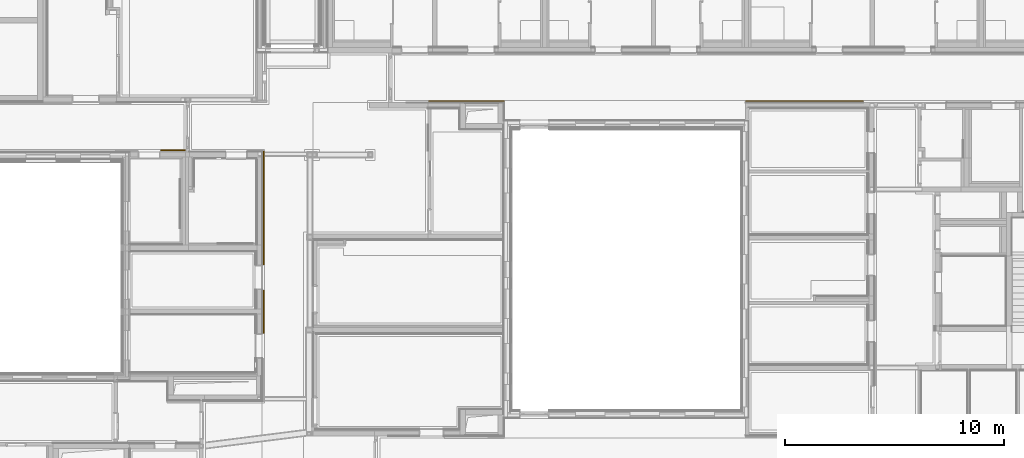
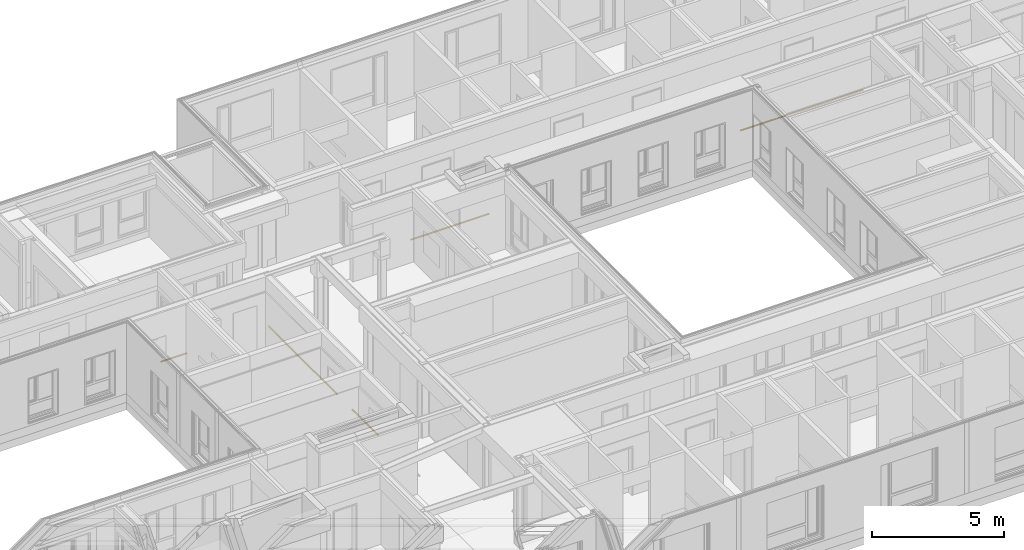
# One storey, part 201 of 207: 5 railings, 5 elements without a shape of their own.
"""IFC4 building model written with IfcOpenShell, lengths in metres."""

from ifc_helpers import new_model, entity, si_unit, converted_unit, derived_unit, frame, origin, place, context, subcontext, project, spatial, faceted_brep, material, element, aggregate, save


model = new_model("IFC4")

# Units and contexts
model_context = context("Model", 3, precision=1e-05, world=origin())
body_context = subcontext(model_context, "Body", "Model", "MODEL_VIEW")
ifc_project = project(units=[si_unit("LENGTHUNIT", "METRE"), si_unit("AREAUNIT", "SQUARE_METRE"), si_unit("VOLUMEUNIT", "CUBIC_METRE"), si_unit("MASSUNIT", "GRAM", prefix="KILO"), converted_unit("PLANEANGLEUNIT", "DEGREE", entity("IfcPlaneAngleMeasure", 0.0174532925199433), si_unit("PLANEANGLEUNIT", "RADIAN"), dimensions=[0, 0, 0, 0, 0, 0, 0]), derived_unit("THERMALTRANSMITTANCEUNIT", [(si_unit("POWERUNIT", "WATT"), 1), (si_unit("THERMODYNAMICTEMPERATUREUNIT", "KELVIN"), -1), (si_unit("LENGTHUNIT", "METRE"), -2)]), derived_unit("VOLUMETRICFLOWRATEUNIT", [(si_unit("LENGTHUNIT", "METRE"), 3), (converted_unit("TIMEUNIT", "hour", entity("IfcTimeMeasure", 3600.0), si_unit("TIMEUNIT", "SECOND"), dimensions=[0, 0, 1, 0, 0, 0, 0]), -1), (si_unit("LENGTHUNIT", "METRE"), -1)])], contexts=[model_context])

# Site, building, storey
site_placement = place(None, origin())
site = spatial("IfcSite", under=ifc_project, at=site_placement, Name="Psychiatrie Neubau Wunstorf", CompositionType="ELEMENT")
building_placement = place(site_placement, origin())
building = spatial("IfcBuilding", under=site, at=building_placement, Name="Neubau H2 Stationsgebäude", CompositionType="ELEMENT")
storey_placement = place(building_placement, frame((0.0, 0.0, -0.2)))
storey = spatial("IfcBuildingStorey", under=building, at=storey_placement, Name="H2 Ebene 0", CompositionType="ELEMENT", Elevation=-0.2)

# Assembly, railing
assembly_1_placement = place(storey_placement, frame((0.0, 0.0, 0.2)))
assembly_1 = element("IfcElementAssembly", 1, at=assembly_1_placement, inside=storey, Name="Geländer+Abstand", PredefinedType="NOTDEFINED")
ifc_material_1 = material(Name="Holz")
railing_1_placement = place(assembly_1_placement, frame((68.1675, 15.4400000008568, 0.8)))
railing_1 = element("IfcRailing", 2, at=railing_1_placement, material=ifc_material_1, context=body_context, shape_type="Brep", body=[
    faceted_brep([(0.025, 5.19599802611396, 0.000103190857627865), (0.0293232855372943, 5.19599802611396, 0.000481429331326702), (0.0335152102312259, 5.19599802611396, 0.00160465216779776), (0.0374484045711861, 5.19599802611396, 0.00343873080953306), (0.0410033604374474, 5.19599802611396, 0.00592793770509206), (0.0440720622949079, 5.19599802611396, 0.00899663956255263), (0.0465612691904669, 5.19599802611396, 0.0125515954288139), (0.0483953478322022, 5.19599802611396, 0.0164847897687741), (0.0495185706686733, 5.19599802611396, 0.0206767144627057), (0.0498968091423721, 5.19599802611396, 0.025), (0.0495185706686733, 5.19599802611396, 0.0293232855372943), (0.0483953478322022, 5.19599802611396, 0.0335152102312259), (0.0465612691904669, 5.19599802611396, 0.0374484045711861), (0.0440720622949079, 5.19599802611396, 0.0410033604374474), (0.0410033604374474, 5.19599802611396, 0.0440720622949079), (0.0374484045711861, 5.19599802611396, 0.0465612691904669), (0.0335152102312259, 5.19599802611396, 0.0483953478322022), (0.0293232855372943, 5.19599802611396, 0.0495185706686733), (0.025, 5.19599802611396, 0.0498968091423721), (0.0206767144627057, 5.19599802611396, 0.0495185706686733), (0.0164847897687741, 5.19599802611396, 0.0483953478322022), (0.0125515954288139, 5.19599802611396, 0.0465612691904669), (0.00899663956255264, 5.19599802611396, 0.044072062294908), (0.00592793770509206, 5.19599802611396, 0.0410033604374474), (0.00343873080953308, 5.19599802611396, 0.0374484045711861), (0.00160465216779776, 5.19599802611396, 0.0335152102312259), (0.000481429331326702, 5.19599802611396, 0.0293232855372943), (0.000103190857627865, 5.19599802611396, 0.025), (0.000481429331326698, 5.19599802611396, 0.0206767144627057), (0.00160465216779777, 5.19599802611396, 0.0164847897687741), (0.00343873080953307, 5.19599802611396, 0.0125515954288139), (0.00592793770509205, 5.19599802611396, 0.00899663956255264), (0.00899663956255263, 5.19599802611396, 0.00592793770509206), (0.0125515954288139, 5.19599802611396, 0.00343873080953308), (0.0164847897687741, 5.19599802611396, 0.00160465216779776), (0.0206767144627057, 5.19599802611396, 0.000481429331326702), (0.025, 0.0, 0.000103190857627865), (0.0206767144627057, 0.0, 0.000481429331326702), (0.0164847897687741, 0.0, 0.00160465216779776), (0.0125515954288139, 0.0, 0.00343873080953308), (0.00899663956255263, 0.0, 0.00592793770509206), (0.00592793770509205, 0.0, 0.00899663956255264), (0.00343873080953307, 0.0, 0.0125515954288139), (0.00160465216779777, 0.0, 0.0164847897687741), (0.000481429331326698, 0.0, 0.0206767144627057), (0.000103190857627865, 0.0, 0.025), (0.000481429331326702, 0.0, 0.0293232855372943), (0.00160465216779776, 0.0, 0.0335152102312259), (0.00343873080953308, 0.0, 0.0374484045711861), (0.00592793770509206, 0.0, 0.0410033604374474), (0.00899663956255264, 0.0, 0.044072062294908), (0.0125515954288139, 0.0, 0.0465612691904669), (0.0164847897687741, 0.0, 0.0483953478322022), (0.0206767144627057, 0.0, 0.0495185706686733), (0.025, 0.0, 0.0498968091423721), (0.0293232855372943, 0.0, 0.0495185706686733), (0.0335152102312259, 0.0, 0.0483953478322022), (0.0374484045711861, 0.0, 0.0465612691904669), (0.0410033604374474, 0.0, 0.0440720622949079), (0.0440720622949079, 0.0, 0.0410033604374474), (0.0465612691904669, 0.0, 0.0374484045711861), (0.0483953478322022, 0.0, 0.0335152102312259), (0.0495185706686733, 0.0, 0.0293232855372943), (0.0498968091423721, 0.0, 0.025), (0.0495185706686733, 0.0, 0.0206767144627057), (0.0483953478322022, 0.0, 0.0164847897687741), (0.0465612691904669, 0.0, 0.0125515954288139), (0.0440720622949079, 0.0, 0.00899663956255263), (0.0410033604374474, 0.0, 0.00592793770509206), (0.0374484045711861, 0.0, 0.00343873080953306), (0.0335152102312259, 0.0, 0.00160465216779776), (0.0293232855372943, 0.0, 0.000481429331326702)], [[[0, 1, 2, 3, 4, 5, 6, 7, 8, 9, 10, 11, 12, 13, 14, 15, 16, 17, 18, 19, 20, 21, 22, 23, 24, 25, 26, 27, 28, 29, 30, 31, 32, 33, 34, 35]], [[36, 37, 38, 39, 40, 41, 42, 43, 44, 45, 46, 47, 48, 49, 50, 51, 52, 53, 54, 55, 56, 57, 58, 59, 60, 61, 62, 63, 64, 65, 66, 67, 68, 69, 70, 71]], [[1, 0, 36, 71]], [[2, 1, 71, 70]], [[3, 2, 70, 69]], [[4, 3, 69, 68]], [[5, 4, 68, 67]], [[6, 5, 67, 66]], [[7, 6, 66, 65]], [[8, 7, 65, 64]], [[9, 8, 64, 63]], [[10, 9, 63, 62]], [[11, 10, 62, 61]], [[12, 11, 61, 60]], [[13, 12, 60, 59]], [[14, 13, 59, 58]], [[15, 14, 58, 57]], [[16, 15, 57, 56]], [[17, 16, 56, 55]], [[18, 17, 55, 54]], [[19, 18, 54, 53]], [[20, 19, 53, 52]], [[21, 20, 52, 51]], [[22, 21, 51, 50]], [[23, 22, 50, 49]], [[24, 23, 49, 48]], [[25, 24, 48, 47]], [[26, 25, 47, 46]], [[27, 26, 46, 45]], [[28, 27, 45, 44]], [[29, 28, 44, 43]], [[30, 29, 43, 42]], [[31, 30, 42, 41]], [[32, 31, 41, 40]], [[33, 32, 40, 39]], [[34, 33, 39, 38]], [[35, 34, 38, 37]], [[0, 35, 37, 36]]], orient=[[False], [False], [False], [False], [False], [False], [False], [False], [False], [False], [False], [False], [False], [False], [False], [False], [False], [False], [False], [False], [False], [False], [False], [False], [False], [False], [False], [False], [False], [False], [False], [False], [False], [False], [False], [False], [False], [False]]),
])
aggregate(assembly_1, [railing_1])

assembly_2_placement = place(storey_placement, frame((0.0, 0.0, 0.2)))
assembly_2 = element("IfcElementAssembly", 3, at=assembly_2_placement, inside=storey, Name="Geländer+Abstand", PredefinedType="NOTDEFINED")
ifc_material_2 = material(Name="Holz")
railing_2_placement = place(assembly_2_placement, frame((68.1675, 12.3085717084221, 0.8)))
railing_2 = element("IfcRailing", 4, at=railing_2_placement, material=ifc_material_2, context=body_context, shape_type="Brep", body=[
    faceted_brep([(0.025, 0.0, 0.0498968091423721), (0.0293232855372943, 0.0, 0.0495185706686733), (0.0335152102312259, 0.0, 0.0483953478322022), (0.0374484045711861, 0.0, 0.0465612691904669), (0.0410033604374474, 0.0, 0.0440720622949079), (0.0440720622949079, 0.0, 0.0410033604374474), (0.0465612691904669, 0.0, 0.0374484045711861), (0.0483953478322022, 0.0, 0.0335152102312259), (0.0495185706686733, 0.0, 0.0293232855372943), (0.0498968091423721, 0.0, 0.025), (0.0495185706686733, 0.0, 0.0206767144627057), (0.0483953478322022, 0.0, 0.0164847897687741), (0.0465612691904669, 0.0, 0.0125515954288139), (0.0440720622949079, 0.0, 0.00899663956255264), (0.0410033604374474, 0.0, 0.00592793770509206), (0.0374484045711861, 0.0, 0.00343873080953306), (0.0335152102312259, 0.0, 0.00160465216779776), (0.0293232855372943, 0.0, 0.000481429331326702), (0.025, 0.0, 0.000103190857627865), (0.0206767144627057, 0.0, 0.000481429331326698), (0.0164847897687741, 0.0, 0.00160465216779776), (0.0125515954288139, 0.0, 0.00343873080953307), (0.00899663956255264, 0.0, 0.00592793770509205), (0.00592793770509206, 0.0, 0.00899663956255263), (0.00343873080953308, 0.0, 0.0125515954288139), (0.00160465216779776, 0.0, 0.0164847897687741), (0.000481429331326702, 0.0, 0.0206767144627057), (0.000103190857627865, 0.0, 0.025), (0.000481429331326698, 0.0, 0.0293232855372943), (0.00160465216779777, 0.0, 0.0335152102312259), (0.00343873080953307, 0.0, 0.0374484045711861), (0.00592793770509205, 0.0, 0.0410033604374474), (0.00899663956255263, 0.0, 0.0440720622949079), (0.0125515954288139, 0.0, 0.0465612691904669), (0.0164847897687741, 0.0, 0.0483953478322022), (0.0206767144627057, 0.0, 0.0495185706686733), (0.025, 1.96642829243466, 0.0498968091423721), (0.0206767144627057, 1.96642829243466, 0.0495185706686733), (0.0164847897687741, 1.96642829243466, 0.0483953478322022), (0.0125515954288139, 1.96642829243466, 0.0465612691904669), (0.00899663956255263, 1.96642829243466, 0.0440720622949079), (0.00592793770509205, 1.96642829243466, 0.0410033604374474), (0.00343873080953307, 1.96642829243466, 0.0374484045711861), (0.00160465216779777, 1.96642829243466, 0.0335152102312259), (0.000481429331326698, 1.96642829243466, 0.0293232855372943), (0.000103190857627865, 1.96642829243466, 0.025), (0.000481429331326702, 1.96642829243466, 0.0206767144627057), (0.00160465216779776, 1.96642829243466, 0.0164847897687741), (0.00343873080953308, 1.96642829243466, 0.0125515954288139), (0.00592793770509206, 1.96642829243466, 0.00899663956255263), (0.00899663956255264, 1.96642829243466, 0.00592793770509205), (0.0125515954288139, 1.96642829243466, 0.00343873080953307), (0.0164847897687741, 1.96642829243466, 0.00160465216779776), (0.0206767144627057, 1.96642829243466, 0.000481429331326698), (0.025, 1.96642829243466, 0.000103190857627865), (0.0293232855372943, 1.96642829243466, 0.000481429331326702), (0.0335152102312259, 1.96642829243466, 0.00160465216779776), (0.0374484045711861, 1.96642829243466, 0.00343873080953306), (0.0410033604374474, 1.96642829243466, 0.00592793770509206), (0.0440720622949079, 1.96642829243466, 0.00899663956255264), (0.0465612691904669, 1.96642829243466, 0.0125515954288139), (0.0483953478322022, 1.96642829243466, 0.0164847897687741), (0.0495185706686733, 1.96642829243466, 0.0206767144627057), (0.0498968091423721, 1.96642829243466, 0.025), (0.0495185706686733, 1.96642829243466, 0.0293232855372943), (0.0483953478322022, 1.96642829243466, 0.0335152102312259), (0.0465612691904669, 1.96642829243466, 0.0374484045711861), (0.0440720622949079, 1.96642829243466, 0.0410033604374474), (0.0410033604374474, 1.96642829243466, 0.0440720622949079), (0.0374484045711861, 1.96642829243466, 0.0465612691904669), (0.0335152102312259, 1.96642829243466, 0.0483953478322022), (0.0293232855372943, 1.96642829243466, 0.0495185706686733)], [[[0, 1, 2, 3, 4, 5, 6, 7, 8, 9, 10, 11, 12, 13, 14, 15, 16, 17, 18, 19, 20, 21, 22, 23, 24, 25, 26, 27, 28, 29, 30, 31, 32, 33, 34, 35]], [[36, 37, 38, 39, 40, 41, 42, 43, 44, 45, 46, 47, 48, 49, 50, 51, 52, 53, 54, 55, 56, 57, 58, 59, 60, 61, 62, 63, 64, 65, 66, 67, 68, 69, 70, 71]], [[1, 0, 36, 71]], [[2, 1, 71, 70]], [[3, 2, 70, 69]], [[4, 3, 69, 68]], [[5, 4, 68, 67]], [[6, 5, 67, 66]], [[7, 6, 66, 65]], [[8, 7, 65, 64]], [[9, 8, 64, 63]], [[10, 9, 63, 62]], [[11, 10, 62, 61]], [[12, 11, 61, 60]], [[13, 12, 60, 59]], [[14, 13, 59, 58]], [[15, 14, 58, 57]], [[16, 15, 57, 56]], [[17, 16, 56, 55]], [[18, 17, 55, 54]], [[19, 18, 54, 53]], [[20, 19, 53, 52]], [[21, 20, 52, 51]], [[22, 21, 51, 50]], [[23, 22, 50, 49]], [[24, 23, 49, 48]], [[25, 24, 48, 47]], [[26, 25, 47, 46]], [[27, 26, 46, 45]], [[28, 27, 45, 44]], [[29, 28, 44, 43]], [[30, 29, 43, 42]], [[31, 30, 42, 41]], [[32, 31, 41, 40]], [[33, 32, 40, 39]], [[34, 33, 39, 38]], [[35, 34, 38, 37]], [[0, 35, 37, 36]]], orient=[[False], [False], [False], [False], [False], [False], [False], [False], [False], [False], [False], [False], [False], [False], [False], [False], [False], [False], [False], [False], [False], [False], [False], [False], [False], [False], [False], [False], [False], [False], [False], [False], [False], [False], [False], [False], [False], [False]]),
])
aggregate(assembly_2, [railing_2])

assembly_3_placement = place(storey_placement, frame((0.0, 0.0, 0.2)))
assembly_3 = element("IfcElementAssembly", 5, at=assembly_3_placement, inside=storey, Name="Geländer+Abstand", PredefinedType="NOTDEFINED")
ifc_material_3 = material(Name="Holz")
railing_3_placement = place(assembly_3_placement, frame((90.211, 22.886, 0.8)))
railing_3 = element("IfcRailing", 6, at=railing_3_placement, material=ifc_material_3, context=body_context, shape_type="Brep", body=[
    faceted_brep([(5.37900001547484, 0.000103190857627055, 0.025), (5.37900001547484, 0.000481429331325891, 0.0293232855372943), (5.37900001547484, 0.00160465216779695, 0.0335152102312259), (5.37900001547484, 0.00343873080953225, 0.0374484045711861), (5.37900001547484, 0.00592793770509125, 0.0410033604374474), (5.37900001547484, 0.00899663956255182, 0.0440720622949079), (5.37900001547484, 0.0125515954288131, 0.0465612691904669), (5.37900001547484, 0.0164847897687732, 0.0483953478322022), (5.37900001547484, 0.0206767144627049, 0.0495185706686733), (5.37900001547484, 0.0249999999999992, 0.0498968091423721), (5.37900001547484, 0.0293232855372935, 0.0495185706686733), (5.37900001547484, 0.0335152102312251, 0.0483953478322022), (5.37900001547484, 0.0374484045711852, 0.0465612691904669), (5.37900001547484, 0.0410033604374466, 0.0440720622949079), (5.37900001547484, 0.0440720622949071, 0.0410033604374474), (5.37900001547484, 0.0465612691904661, 0.0374484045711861), (5.37900001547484, 0.0483953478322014, 0.0335152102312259), (5.37900001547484, 0.0495185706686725, 0.0293232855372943), (5.37900001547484, 0.0498968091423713, 0.025), (5.37900001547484, 0.0495185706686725, 0.0206767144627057), (5.37900001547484, 0.0483953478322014, 0.0164847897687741), (5.37900001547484, 0.0465612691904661, 0.0125515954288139), (5.37900001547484, 0.0440720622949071, 0.00899663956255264), (5.37900001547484, 0.0410033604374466, 0.00592793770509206), (5.37900001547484, 0.0374484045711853, 0.00343873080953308), (5.37900001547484, 0.0335152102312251, 0.00160465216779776), (5.37900001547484, 0.0293232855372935, 0.000481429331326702), (5.37900001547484, 0.0249999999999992, 0.000103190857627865), (5.37900001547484, 0.0206767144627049, 0.000481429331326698), (5.37900001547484, 0.0164847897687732, 0.00160465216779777), (5.37900001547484, 0.0125515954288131, 0.00343873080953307), (5.37900001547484, 0.00899663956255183, 0.00592793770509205), (5.37900001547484, 0.00592793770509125, 0.00899663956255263), (5.37900001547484, 0.00343873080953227, 0.0125515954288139), (5.37900001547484, 0.00160465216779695, 0.0164847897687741), (5.37900001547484, 0.000481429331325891, 0.0206767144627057), (0.0, 0.000103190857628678, 0.025), (0.0, 0.000481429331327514, 0.0206767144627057), (0.0, 0.00160465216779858, 0.0164847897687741), (0.0, 0.00343873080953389, 0.0125515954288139), (0.0, 0.00592793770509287, 0.00899663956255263), (0.0, 0.00899663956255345, 0.00592793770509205), (0.0, 0.0125515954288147, 0.00343873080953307), (0.0, 0.0164847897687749, 0.00160465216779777), (0.0, 0.0206767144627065, 0.000481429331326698), (0.0, 0.0250000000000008, 0.000103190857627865), (0.0, 0.0293232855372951, 0.000481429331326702), (0.0, 0.0335152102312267, 0.00160465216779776), (0.0, 0.0374484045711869, 0.00343873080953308), (0.0, 0.0410033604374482, 0.00592793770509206), (0.0, 0.0440720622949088, 0.00899663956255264), (0.0, 0.0465612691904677, 0.0125515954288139), (0.0, 0.0483953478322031, 0.0164847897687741), (0.0, 0.0495185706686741, 0.0206767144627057), (0.0, 0.0498968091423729, 0.025), (0.0, 0.0495185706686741, 0.0293232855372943), (0.0, 0.048395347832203, 0.0335152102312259), (0.0, 0.0465612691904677, 0.0374484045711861), (0.0, 0.0440720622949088, 0.0410033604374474), (0.0, 0.0410033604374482, 0.0440720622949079), (0.0, 0.0374484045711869, 0.0465612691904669), (0.0, 0.0335152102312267, 0.0483953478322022), (0.0, 0.0293232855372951, 0.0495185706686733), (0.0, 0.0250000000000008, 0.0498968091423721), (0.0, 0.0206767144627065, 0.0495185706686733), (0.0, 0.0164847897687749, 0.0483953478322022), (0.0, 0.0125515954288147, 0.0465612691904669), (0.0, 0.00899663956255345, 0.0440720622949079), (0.0, 0.00592793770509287, 0.0410033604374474), (0.0, 0.00343873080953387, 0.0374484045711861), (0.0, 0.00160465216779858, 0.0335152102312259), (0.0, 0.000481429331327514, 0.0293232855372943)], [[[0, 1, 2, 3, 4, 5, 6, 7, 8, 9, 10, 11, 12, 13, 14, 15, 16, 17, 18, 19, 20, 21, 22, 23, 24, 25, 26, 27, 28, 29, 30, 31, 32, 33, 34, 35]], [[36, 37, 38, 39, 40, 41, 42, 43, 44, 45, 46, 47, 48, 49, 50, 51, 52, 53, 54, 55, 56, 57, 58, 59, 60, 61, 62, 63, 64, 65, 66, 67, 68, 69, 70, 71]], [[1, 0, 36, 71]], [[2, 1, 71, 70]], [[3, 2, 70, 69]], [[4, 3, 69, 68]], [[5, 4, 68, 67]], [[6, 5, 67, 66]], [[7, 6, 66, 65]], [[8, 7, 65, 64]], [[9, 8, 64, 63]], [[10, 9, 63, 62]], [[11, 10, 62, 61]], [[12, 11, 61, 60]], [[13, 12, 60, 59]], [[14, 13, 59, 58]], [[15, 14, 58, 57]], [[16, 15, 57, 56]], [[17, 16, 56, 55]], [[18, 17, 55, 54]], [[19, 18, 54, 53]], [[20, 19, 53, 52]], [[21, 20, 52, 51]], [[22, 21, 51, 50]], [[23, 22, 50, 49]], [[24, 23, 49, 48]], [[25, 24, 48, 47]], [[26, 25, 47, 46]], [[27, 26, 46, 45]], [[28, 27, 45, 44]], [[29, 28, 44, 43]], [[30, 29, 43, 42]], [[31, 30, 42, 41]], [[32, 31, 41, 40]], [[33, 32, 40, 39]], [[34, 33, 39, 38]], [[35, 34, 38, 37]], [[0, 35, 37, 36]]], orient=[[False], [False], [False], [False], [False], [False], [False], [False], [False], [False], [False], [False], [False], [False], [False], [False], [False], [False], [False], [False], [False], [False], [False], [False], [False], [False], [False], [False], [False], [False], [False], [False], [False], [False], [False], [False], [False], [False]]),
])
aggregate(assembly_3, [railing_3])

assembly_4_placement = place(storey_placement, frame((0.0, 0.0, 0.2)))
assembly_4 = element("IfcElementAssembly", 7, at=assembly_4_placement, inside=storey, Name="Geländer+Abstand", PredefinedType="NOTDEFINED")
ifc_material_4 = material(Name="Holz")
railing_4_placement = place(assembly_4_placement, frame((75.74, 22.886, 0.8)))
railing_4 = element("IfcRailing", 8, at=railing_4_placement, material=ifc_material_4, context=body_context, shape_type="Brep", body=[
    faceted_brep([(3.43999963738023, 0.000103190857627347, 0.025), (3.43999963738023, 0.000481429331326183, 0.0293232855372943), (3.43999963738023, 0.00160465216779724, 0.0335152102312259), (3.43999963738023, 0.00343873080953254, 0.0374484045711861), (3.43999963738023, 0.00592793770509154, 0.0410033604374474), (3.43999963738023, 0.00899663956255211, 0.0440720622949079), (3.43999963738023, 0.0125515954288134, 0.0465612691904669), (3.43999963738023, 0.0164847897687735, 0.0483953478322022), (3.43999963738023, 0.0206767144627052, 0.0495185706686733), (3.43999963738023, 0.0249999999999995, 0.0498968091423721), (3.43999963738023, 0.0293232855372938, 0.0495185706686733), (3.43999963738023, 0.0335152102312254, 0.0483953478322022), (3.43999963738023, 0.0374484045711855, 0.0465612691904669), (3.43999963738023, 0.0410033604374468, 0.0440720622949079), (3.43999963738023, 0.0440720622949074, 0.0410033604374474), (3.43999963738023, 0.0465612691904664, 0.0374484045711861), (3.43999963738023, 0.0483953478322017, 0.0335152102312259), (3.43999963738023, 0.0495185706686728, 0.0293232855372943), (3.43999963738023, 0.0498968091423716, 0.025), (3.43999963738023, 0.0495185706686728, 0.0206767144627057), (3.43999963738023, 0.0483953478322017, 0.0164847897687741), (3.43999963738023, 0.0465612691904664, 0.0125515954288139), (3.43999963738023, 0.0440720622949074, 0.00899663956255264), (3.43999963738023, 0.0410033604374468, 0.00592793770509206), (3.43999963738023, 0.0374484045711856, 0.00343873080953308), (3.43999963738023, 0.0335152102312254, 0.00160465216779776), (3.43999963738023, 0.0293232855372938, 0.000481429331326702), (3.43999963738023, 0.0249999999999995, 0.000103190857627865), (3.43999963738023, 0.0206767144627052, 0.000481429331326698), (3.43999963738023, 0.0164847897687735, 0.00160465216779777), (3.43999963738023, 0.0125515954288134, 0.00343873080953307), (3.43999963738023, 0.00899663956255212, 0.00592793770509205), (3.43999963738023, 0.00592793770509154, 0.00899663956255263), (3.43999963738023, 0.00343873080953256, 0.0125515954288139), (3.43999963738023, 0.00160465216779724, 0.0164847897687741), (3.43999963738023, 0.000481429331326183, 0.0206767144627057), (0.0, 0.000103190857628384, 0.025), (0.0, 0.00048142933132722, 0.0206767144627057), (0.0, 0.00160465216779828, 0.0164847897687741), (0.0, 0.0034387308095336, 0.0125515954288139), (0.0, 0.00592793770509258, 0.00899663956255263), (0.0, 0.00899663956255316, 0.00592793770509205), (0.0, 0.0125515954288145, 0.00343873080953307), (0.0, 0.0164847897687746, 0.00160465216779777), (0.0, 0.0206767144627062, 0.000481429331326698), (0.0, 0.0250000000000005, 0.000103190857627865), (0.0, 0.0293232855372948, 0.000481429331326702), (0.0, 0.0335152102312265, 0.00160465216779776), (0.0, 0.0374484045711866, 0.00343873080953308), (0.0, 0.0410033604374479, 0.00592793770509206), (0.0, 0.0440720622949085, 0.00899663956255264), (0.0, 0.0465612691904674, 0.0125515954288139), (0.0, 0.0483953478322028, 0.0164847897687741), (0.0, 0.0495185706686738, 0.0206767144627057), (0.0, 0.0498968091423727, 0.025), (0.0, 0.0495185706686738, 0.0293232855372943), (0.0, 0.0483953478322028, 0.0335152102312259), (0.0, 0.0465612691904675, 0.0374484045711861), (0.0, 0.0440720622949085, 0.0410033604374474), (0.0, 0.0410033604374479, 0.0440720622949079), (0.0, 0.0374484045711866, 0.0465612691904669), (0.0, 0.0335152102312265, 0.0483953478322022), (0.0, 0.0293232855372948, 0.0495185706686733), (0.0, 0.0250000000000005, 0.0498968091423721), (0.0, 0.0206767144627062, 0.0495185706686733), (0.0, 0.0164847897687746, 0.0483953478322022), (0.0, 0.0125515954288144, 0.0465612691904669), (0.0, 0.00899663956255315, 0.0440720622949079), (0.0, 0.00592793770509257, 0.0410033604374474), (0.0, 0.00343873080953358, 0.0374484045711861), (0.0, 0.00160465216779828, 0.0335152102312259), (0.0, 0.00048142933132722, 0.0293232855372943)], [[[0, 1, 2, 3, 4, 5, 6, 7, 8, 9, 10, 11, 12, 13, 14, 15, 16, 17, 18, 19, 20, 21, 22, 23, 24, 25, 26, 27, 28, 29, 30, 31, 32, 33, 34, 35]], [[36, 37, 38, 39, 40, 41, 42, 43, 44, 45, 46, 47, 48, 49, 50, 51, 52, 53, 54, 55, 56, 57, 58, 59, 60, 61, 62, 63, 64, 65, 66, 67, 68, 69, 70, 71]], [[1, 0, 36, 71]], [[2, 1, 71, 70]], [[3, 2, 70, 69]], [[4, 3, 69, 68]], [[5, 4, 68, 67]], [[6, 5, 67, 66]], [[7, 6, 66, 65]], [[8, 7, 65, 64]], [[9, 8, 64, 63]], [[10, 9, 63, 62]], [[11, 10, 62, 61]], [[12, 11, 61, 60]], [[13, 12, 60, 59]], [[14, 13, 59, 58]], [[15, 14, 58, 57]], [[16, 15, 57, 56]], [[17, 16, 56, 55]], [[18, 17, 55, 54]], [[19, 18, 54, 53]], [[20, 19, 53, 52]], [[21, 20, 52, 51]], [[22, 21, 51, 50]], [[23, 22, 50, 49]], [[24, 23, 49, 48]], [[25, 24, 48, 47]], [[26, 25, 47, 46]], [[27, 26, 46, 45]], [[28, 27, 45, 44]], [[29, 28, 44, 43]], [[30, 29, 43, 42]], [[31, 30, 42, 41]], [[32, 31, 41, 40]], [[33, 32, 40, 39]], [[34, 33, 39, 38]], [[35, 34, 38, 37]], [[0, 35, 37, 36]]], orient=[[False], [False], [False], [False], [False], [False], [False], [False], [False], [False], [False], [False], [False], [False], [False], [False], [False], [False], [False], [False], [False], [False], [False], [False], [False], [False], [False], [False], [False], [False], [False], [False], [False], [False], [False], [False], [False], [False]]),
])
aggregate(assembly_4, [railing_4])

assembly_5_placement = place(storey_placement, frame((0.0, 0.0, 0.2)))
assembly_5 = element("IfcElementAssembly", 9, at=assembly_5_placement, inside=storey, Name="Geländer+Abstand", PredefinedType="NOTDEFINED")
ifc_material_5 = material(Name="Holz")
railing_5_placement = place(assembly_5_placement, frame((63.4750000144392, 20.6359980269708, 0.8)))
railing_5 = element("IfcRailing", 10, at=railing_5_placement, material=ifc_material_5, context=body_context, shape_type="Brep", body=[
    faceted_brep([(1.13349998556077, 0.000103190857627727, 0.025), (1.13349998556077, 0.000481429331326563, 0.0293232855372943), (1.13349998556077, 0.00160465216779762, 0.0335152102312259), (1.13349998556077, 0.00343873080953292, 0.0374484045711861), (1.13349998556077, 0.00592793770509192, 0.0410033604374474), (1.13349998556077, 0.00899663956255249, 0.0440720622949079), (1.13349998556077, 0.0125515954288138, 0.0465612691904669), (1.13349998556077, 0.0164847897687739, 0.0483953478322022), (1.13349998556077, 0.0206767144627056, 0.0495185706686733), (1.13349998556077, 0.0249999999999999, 0.0498968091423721), (1.13349998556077, 0.0293232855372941, 0.0495185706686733), (1.13349998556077, 0.0335152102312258, 0.0483953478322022), (1.13349998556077, 0.0374484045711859, 0.0465612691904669), (1.13349998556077, 0.0410033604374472, 0.0440720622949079), (1.13349998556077, 0.0440720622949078, 0.0410033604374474), (1.13349998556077, 0.0465612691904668, 0.0374484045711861), (1.13349998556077, 0.0483953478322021, 0.0335152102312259), (1.13349998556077, 0.0495185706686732, 0.0293232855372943), (1.13349998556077, 0.049896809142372, 0.025), (1.13349998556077, 0.0495185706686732, 0.0206767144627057), (1.13349998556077, 0.0483953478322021, 0.0164847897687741), (1.13349998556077, 0.0465612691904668, 0.0125515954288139), (1.13349998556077, 0.0440720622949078, 0.00899663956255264), (1.13349998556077, 0.0410033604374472, 0.00592793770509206), (1.13349998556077, 0.0374484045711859, 0.00343873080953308), (1.13349998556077, 0.0335152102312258, 0.00160465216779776), (1.13349998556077, 0.0293232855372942, 0.000481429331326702), (1.13349998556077, 0.0249999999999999, 0.000103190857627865), (1.13349998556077, 0.0206767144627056, 0.000481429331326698), (1.13349998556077, 0.0164847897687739, 0.00160465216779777), (1.13349998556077, 0.0125515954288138, 0.00343873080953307), (1.13349998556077, 0.0089966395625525, 0.00592793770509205), (1.13349998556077, 0.00592793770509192, 0.00899663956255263), (1.13349998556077, 0.00343873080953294, 0.0125515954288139), (1.13349998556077, 0.00160465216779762, 0.0164847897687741), (1.13349998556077, 0.000481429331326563, 0.0206767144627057), (0.0, 0.000103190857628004, 0.025), (0.0, 0.000481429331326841, 0.0206767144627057), (0.0, 0.0016046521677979, 0.0164847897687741), (0.0, 0.00343873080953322, 0.0125515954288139), (0.0, 0.0059279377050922, 0.00899663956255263), (0.0, 0.00899663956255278, 0.00592793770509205), (0.0, 0.0125515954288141, 0.00343873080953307), (0.0, 0.0164847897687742, 0.00160465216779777), (0.0, 0.0206767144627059, 0.000481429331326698), (0.0, 0.0250000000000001, 0.000103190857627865), (0.0, 0.0293232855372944, 0.000481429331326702), (0.0, 0.0335152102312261, 0.00160465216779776), (0.0, 0.0374484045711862, 0.00343873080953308), (0.0, 0.0410033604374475, 0.00592793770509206), (0.0, 0.0440720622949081, 0.00899663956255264), (0.0, 0.0465612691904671, 0.0125515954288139), (0.0, 0.0483953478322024, 0.0164847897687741), (0.0, 0.0495185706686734, 0.0206767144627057), (0.0, 0.0498968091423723, 0.025), (0.0, 0.0495185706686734, 0.0293232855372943), (0.0, 0.0483953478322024, 0.0335152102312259), (0.0, 0.0465612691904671, 0.0374484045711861), (0.0, 0.0440720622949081, 0.0410033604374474), (0.0, 0.0410033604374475, 0.0440720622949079), (0.0, 0.0374484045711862, 0.0465612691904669), (0.0, 0.0335152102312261, 0.0483953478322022), (0.0, 0.0293232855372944, 0.0495185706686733), (0.0, 0.0250000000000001, 0.0498968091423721), (0.0, 0.0206767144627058, 0.0495185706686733), (0.0, 0.0164847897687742, 0.0483953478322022), (0.0, 0.0125515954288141, 0.0465612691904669), (0.0, 0.00899663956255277, 0.0440720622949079), (0.0, 0.0059279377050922, 0.0410033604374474), (0.0, 0.0034387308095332, 0.0374484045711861), (0.0, 0.0016046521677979, 0.0335152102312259), (0.0, 0.000481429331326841, 0.0293232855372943)], [[[0, 1, 2, 3, 4, 5, 6, 7, 8, 9, 10, 11, 12, 13, 14, 15, 16, 17, 18, 19, 20, 21, 22, 23, 24, 25, 26, 27, 28, 29, 30, 31, 32, 33, 34, 35]], [[36, 37, 38, 39, 40, 41, 42, 43, 44, 45, 46, 47, 48, 49, 50, 51, 52, 53, 54, 55, 56, 57, 58, 59, 60, 61, 62, 63, 64, 65, 66, 67, 68, 69, 70, 71]], [[1, 0, 36, 71]], [[2, 1, 71, 70]], [[3, 2, 70, 69]], [[4, 3, 69, 68]], [[5, 4, 68, 67]], [[6, 5, 67, 66]], [[7, 6, 66, 65]], [[8, 7, 65, 64]], [[9, 8, 64, 63]], [[10, 9, 63, 62]], [[11, 10, 62, 61]], [[12, 11, 61, 60]], [[13, 12, 60, 59]], [[14, 13, 59, 58]], [[15, 14, 58, 57]], [[16, 15, 57, 56]], [[17, 16, 56, 55]], [[18, 17, 55, 54]], [[19, 18, 54, 53]], [[20, 19, 53, 52]], [[21, 20, 52, 51]], [[22, 21, 51, 50]], [[23, 22, 50, 49]], [[24, 23, 49, 48]], [[25, 24, 48, 47]], [[26, 25, 47, 46]], [[27, 26, 46, 45]], [[28, 27, 45, 44]], [[29, 28, 44, 43]], [[30, 29, 43, 42]], [[31, 30, 42, 41]], [[32, 31, 41, 40]], [[33, 32, 40, 39]], [[34, 33, 39, 38]], [[35, 34, 38, 37]], [[0, 35, 37, 36]]], orient=[[False], [False], [False], [False], [False], [False], [False], [False], [False], [False], [False], [False], [False], [False], [False], [False], [False], [False], [False], [False], [False], [False], [False], [False], [False], [False], [False], [False], [False], [False], [False], [False], [False], [False], [False], [False], [False], [False]]),
])
aggregate(assembly_5, [railing_5])

save(model, "model.ifc")
